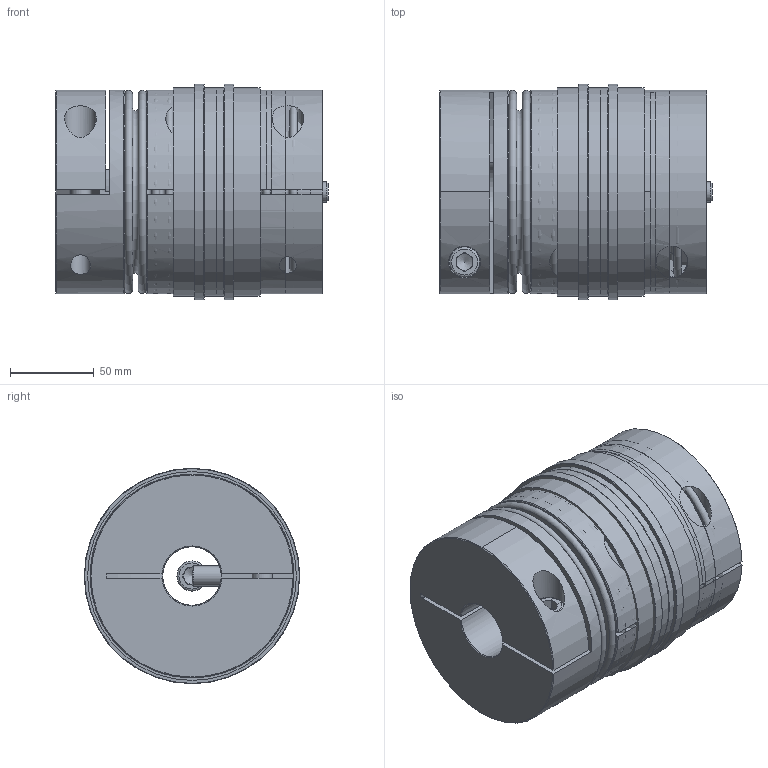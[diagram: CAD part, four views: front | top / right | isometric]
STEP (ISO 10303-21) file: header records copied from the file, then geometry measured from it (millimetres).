
FILE_DESCRIPTION( ( 'Unknown' ), '1' );
FILE_NAME( 'C:/Dokumente und Einstellungen/SKarpstein/Desktop/Korrigierte 3D Modelle/KBK-BKK-500-158.stp', 'Unknown', ( 'Unknown' ), ( 'Unknown' ), 'XStep 1.0', 'Unknown', ' ' );
FILE_SCHEMA( ( 'automotive_design' ) );
Length unit declared in the file: millimetre
Products named in the file (11): Assem1; Assem2; Zylinderschraube DIN 912_3_0_0; Stellring 500_0; Druckring 500_0; KBK L-K-500 Grundkörper_0; Klemmnabe 500_0; Flansch BK500; KN500_Standard_4; Socket Head Cap Screw_DIN_DIN 912 M12 x 55 --- 55N_4; BK500_Standard_0
Bounding box: 163.45 x 129 x 129 mm (x, y, z)
Volume: 2672042.7 mm3; surface area: 619763.6 mm2
Topology: 19 solids, 19 shells, 361 faces, 758 edges, 499 vertices
Faces by surface type: plane 168, cylinder 98, cone 59, torus 36
Full cylindrical faces by diameter (mm): 3.242 x6, 5.1 x6, 5.2 x6, 10.106 x2, 12 x7, 12.5 x4, 18 x5, 19 x4, 35 x4, 62 x2, 65 x4, 70 x2, 80 x2, 86 x4, 90 x2, 104.5 x2, 107.7 x4, 108.9 x4, 113 x2, 114 x2, 122 x2, 125 x4, 129 x2
Entity records: 5027 total; most frequent: CARTESIAN_POINT 1397, DIRECTION 743, ORIENTED_EDGE 508, AXIS2_PLACEMENT_3D 335, EDGE_LOOP 308, EDGE_CURVE 254, FACE_OUTER_BOUND 230, VERTEX_POINT 211
